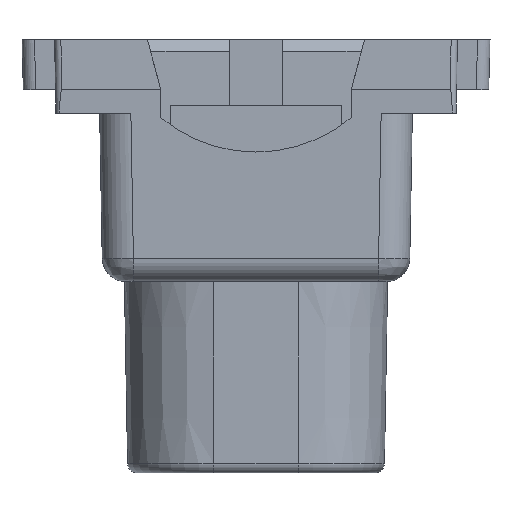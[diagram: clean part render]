
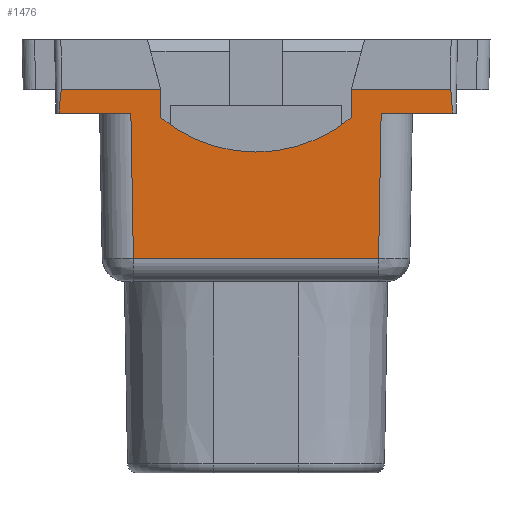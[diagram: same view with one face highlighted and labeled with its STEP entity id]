
A CAD part, front view. The second image highlights one B-rep face of the part: STEP entity #1476.
In plain terms, the highlighted planar face has unit normal (0, -1, -0.018).
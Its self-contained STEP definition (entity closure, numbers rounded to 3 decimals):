
#123=ELLIPSE('',#4700,9.558,9.557);
#124=ELLIPSE('',#4703,15.283,0.4);
#125=ELLIPSE('',#4704,15.283,0.4);
#612=LINE('',#9620,#1120);
#618=LINE('',#9632,#1126);
#620=LINE('',#9636,#1128);
#632=LINE('',#9661,#1140);
#636=LINE('',#9675,#1144);
#641=LINE('',#9689,#1149);
#643=LINE('',#9692,#1151);
#644=LINE('',#9694,#1152);
#645=LINE('',#9696,#1153);
#1120=VECTOR('',#5570,1.);
#1126=VECTOR('',#5580,1.);
#1128=VECTOR('',#5584,1.);
#1140=VECTOR('',#5604,1.);
#1144=VECTOR('',#5616,1.);
#1149=VECTOR('',#5631,1.);
#1151=VECTOR('',#5635,1.);
#1152=VECTOR('',#5636,1.);
#1153=VECTOR('',#5637,1.);
#1476=ADVANCED_FACE('',(#1825),#1643,.F.);
#1643=PLANE('',#4705);
#1825=FACE_OUTER_BOUND('',#2087,.T.);
#2087=EDGE_LOOP('',(#2937,#2938,#2939,#2940,#2941,#2942,#2943,#2944,#2945,
#2946,#2947,#2948));
#2937=ORIENTED_EDGE('',*,*,#4258,.T.);
#2938=ORIENTED_EDGE('',*,*,#4267,.T.);
#2939=ORIENTED_EDGE('',*,*,#4268,.T.);
#2940=ORIENTED_EDGE('',*,*,#4269,.T.);
#2941=ORIENTED_EDGE('',*,*,#4270,.T.);
#2942=ORIENTED_EDGE('',*,*,#4231,.F.);
#2943=ORIENTED_EDGE('',*,*,#4265,.F.);
#2944=ORIENTED_EDGE('',*,*,#4263,.T.);
#2945=ORIENTED_EDGE('',*,*,#4239,.T.);
#2946=ORIENTED_EDGE('',*,*,#4237,.F.);
#2947=ORIENTED_EDGE('',*,*,#4271,.T.);
#2948=ORIENTED_EDGE('',*,*,#4251,.F.);
#3706=VERTEX_POINT('',#9615);
#3708=VERTEX_POINT('',#9621);
#3709=VERTEX_POINT('',#9625);
#3711=VERTEX_POINT('',#9631);
#3713=VERTEX_POINT('',#9637);
#3722=VERTEX_POINT('',#9662);
#3723=VERTEX_POINT('',#9663);
#3727=VERTEX_POINT('',#9674);
#3731=VERTEX_POINT('',#9686);
#3732=VERTEX_POINT('',#9693);
#3733=VERTEX_POINT('',#9695);
#3734=VERTEX_POINT('',#9697);
#4231=EDGE_CURVE('',#3706,#3708,#612,.T.);
#4237=EDGE_CURVE('',#3711,#3709,#618,.T.);
#4239=EDGE_CURVE('',#3713,#3709,#620,.T.);
#4251=EDGE_CURVE('',#3722,#3723,#632,.T.);
#4258=EDGE_CURVE('',#3722,#3727,#636,.T.);
#4263=EDGE_CURVE('',#3731,#3713,#123,.T.);
#4265=EDGE_CURVE('',#3731,#3706,#641,.T.);
#4267=EDGE_CURVE('',#3727,#3732,#643,.T.);
#4268=EDGE_CURVE('',#3732,#3733,#644,.T.);
#4269=EDGE_CURVE('',#3733,#3734,#645,.T.);
#4270=EDGE_CURVE('',#3734,#3708,#124,.T.);
#4271=EDGE_CURVE('',#3711,#3723,#125,.T.);
#4700=AXIS2_PLACEMENT_3D('',#9685,#5626,#5627);
#4703=AXIS2_PLACEMENT_3D('',#9698,#5638,#5639);
#4704=AXIS2_PLACEMENT_3D('',#9699,#5640,#5641);
#4705=AXIS2_PLACEMENT_3D('',#9700,#5642,#5643);
#5570=DIRECTION('',(1.,0.,0.));
#5580=DIRECTION('',(1.,0.,0.));
#5584=DIRECTION('',(0.,-0.017,1.));
#5604=DIRECTION('',(-1.,0.,0.));
#5616=DIRECTION('',(0.017,0.017,-1.));
#5626=DIRECTION('',(0.,1.,0.017));
#5627=DIRECTION('',(0.,-0.017,1.));
#5631=DIRECTION('',(0.,-0.017,1.));
#5635=DIRECTION('',(1.,0.,0.));
#5636=DIRECTION('',(0.017,-0.017,1.));
#5637=DIRECTION('',(1.,0.,0.));
#5638=DIRECTION('',(0.,-1.,-0.017));
#5639=DIRECTION('',(-0.016,0.017,-1.));
#5640=DIRECTION('',(0.,-1.,-0.017));
#5641=DIRECTION('',(0.016,0.017,-1.));
#5642=DIRECTION('',(0.,1.,0.017));
#5643=DIRECTION('',(0.,0.017,-1.));
#9615=CARTESIAN_POINT('',(6.1,-7.644,1.27));
#9620=CARTESIAN_POINT('',(-13.417,-7.644,1.27));
#9621=CARTESIAN_POINT('',(12.451,-7.644,1.27));
#9625=CARTESIAN_POINT('',(-6.1,-7.644,1.27));
#9631=CARTESIAN_POINT('',(-12.451,-7.644,1.27));
#9632=CARTESIAN_POINT('',(-13.417,-7.644,1.27));
#9636=CARTESIAN_POINT('',(-6.1,-7.7,4.47));
#9637=CARTESIAN_POINT('',(-6.1,-7.613,-0.53));
#9661=CARTESIAN_POINT('',(-25.,-7.618,-0.23));
#9662=CARTESIAN_POINT('',(-8.018,-7.618,-0.23));
#9663=CARTESIAN_POINT('',(-12.6,-7.618,-0.23));
#9674=CARTESIAN_POINT('',(-7.855,-7.455,-9.556));
#9675=CARTESIAN_POINT('',(-8.098,-7.698,4.329));
#9685=CARTESIAN_POINT('',(0.,-7.741,6.827));
#9686=CARTESIAN_POINT('',(6.1,-7.613,-0.53));
#9689=CARTESIAN_POINT('',(6.1,-7.7,4.47));
#9692=CARTESIAN_POINT('',(0.,-7.455,-9.556));
#9693=CARTESIAN_POINT('',(7.855,-7.455,-9.556));
#9694=CARTESIAN_POINT('',(8.098,-7.698,4.329));
#9695=CARTESIAN_POINT('',(8.018,-7.618,-0.23));
#9696=CARTESIAN_POINT('',(25.,-7.618,-0.23));
#9697=CARTESIAN_POINT('',(12.6,-7.618,-0.23));
#9698=CARTESIAN_POINT('',(12.207,-7.377,-14.008));
#9699=CARTESIAN_POINT('',(-12.207,-7.377,-14.008));
#9700=CARTESIAN_POINT('',(0.,-7.7,4.47));
